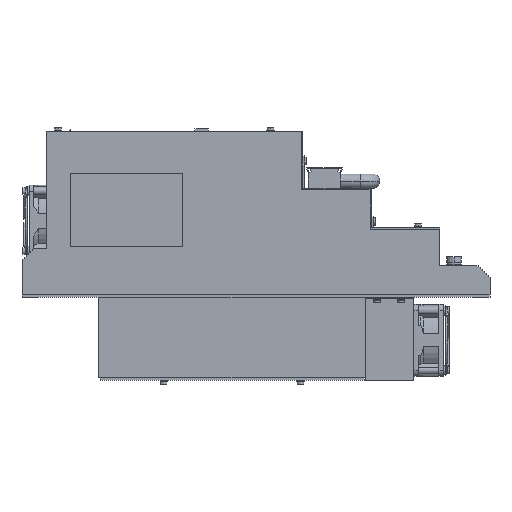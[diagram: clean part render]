
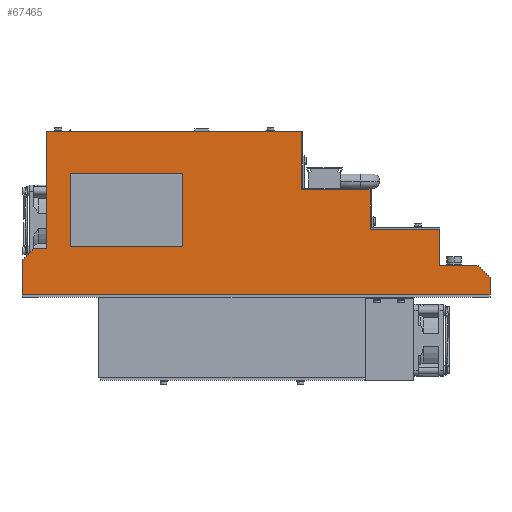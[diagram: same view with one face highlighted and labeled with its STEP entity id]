
A CAD part, left-side view. The second image highlights one B-rep face of the part: STEP entity #67465.
In plain terms, the highlighted planar face has unit normal (-1, 0, 0).
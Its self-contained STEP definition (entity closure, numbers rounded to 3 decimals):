
#19803 = DIRECTION ( 'NONE',  ( 0., 1., 0. ) ) ;
#19804 = VECTOR ( 'NONE', #19803, 1000. ) ;
#19805 = CARTESIAN_POINT ( 'NONE',  ( -12.5, -282.5, 89.5 ) ) ;
#19806 = LINE ( 'NONE', #19805, #19804 ) ;
#19808 = CARTESIAN_POINT ( 'NONE',  ( -12.5, -282.5, 89.5 ) ) ;
#19809 = DIRECTION ( 'NONE',  ( 0., 0., 1. ) ) ;
#19810 = VECTOR ( 'NONE', #19809, 1000. ) ;
#19811 = CARTESIAN_POINT ( 'NONE',  ( -12.5, -282.5, 56.5 ) ) ;
#19812 = LINE ( 'NONE', #19811, #19810 ) ;
#19813 = CARTESIAN_POINT ( 'NONE',  ( -12.5, -282.5, 56.5 ) ) ;
#19814 = DIRECTION ( 'NONE',  ( 0., 1., 0. ) ) ;
#19815 = VECTOR ( 'NONE', #19814, 1000. ) ;
#19816 = CARTESIAN_POINT ( 'NONE',  ( -12.5, -340.5, 56.5 ) ) ;
#19817 = LINE ( 'NONE', #19816, #19815 ) ;
#19818 = DIRECTION ( 'NONE',  ( 0., 1., 0. ) ) ;
#19819 = VECTOR ( 'NONE', #19818, 1000. ) ;
#19820 = CARTESIAN_POINT ( 'NONE',  ( -12.5, -32.5, 103. ) ) ;
#19825 = LINE ( 'NONE', #19820, #19819 ) ;
#19832 = DIRECTION ( 'NONE',  ( 0., -1., 0. ) ) ;
#19833 = VECTOR ( 'NONE', #19832, 1000. ) ;
#19834 = CARTESIAN_POINT ( 'NONE',  ( -12.5, -32.5, 42. ) ) ;
#19835 = LINE ( 'NONE', #19834, #19833 ) ;
#19836 = CARTESIAN_POINT ( 'NONE',  ( -12.5, -126.5, 103. ) ) ;
#19837 = CARTESIAN_POINT ( 'NONE',  ( -12.5, -126.5, 42. ) ) ;
#19838 = DIRECTION ( 'NONE',  ( 0., 0., 1. ) ) ;
#19839 = VECTOR ( 'NONE', #19838, 1000. ) ;
#19840 = CARTESIAN_POINT ( 'NONE',  ( -12.5, -126.5, 42. ) ) ;
#19841 = LINE ( 'NONE', #19840, #19839 ) ;
#19842 = DIRECTION ( 'NONE',  ( 0., 1., 0. ) ) ;
#19843 = DIRECTION ( 'NONE',  ( 1., 0., 0. ) ) ;
#19844 = CARTESIAN_POINT ( 'NONE',  ( -12.5, -12.5, 540.55 ) ) ;
#19845 = AXIS2_PLACEMENT_3D ( 'NONE', #19844, #19843, #19842 ) ;
#19846 = PLANE ( 'NONE',  #19845 ) ;
#19847 = FACE_OUTER_BOUND ( 'NONE', #67449, .T. ) ;
#19848 = FACE_BOUND ( 'NONE', #67466, .T. ) ;
#19893 = CARTESIAN_POINT ( 'NONE',  ( -12.5, -32.5, 42. ) ) ;
#19895 = CARTESIAN_POINT ( 'NONE',  ( -12.5, 7.5, 2. ) ) ;
#19896 = DIRECTION ( 'NONE',  ( 0., 0., 1. ) ) ;
#19897 = VECTOR ( 'NONE', #19896, 1000. ) ;
#19898 = CARTESIAN_POINT ( 'NONE',  ( -12.5, 7.5, -466.722 ) ) ;
#19899 = LINE ( 'NONE', #19898, #19897 ) ;
#19929 = LINE ( 'NONE', #19992, #19991 ) ;
#19930 = CARTESIAN_POINT ( 'NONE',  ( -12.5, -12.5, 40.5 ) ) ;
#19931 = DIRECTION ( 'NONE',  ( 0., 0., -1. ) ) ;
#19932 = VECTOR ( 'NONE', #19931, 1000. ) ;
#19933 = CARTESIAN_POINT ( 'NONE',  ( -12.5, -12.5, 540.55 ) ) ;
#19934 = LINE ( 'NONE', #19933, #19932 ) ;
#19935 = DIRECTION ( 'NONE',  ( 0., 0., 1. ) ) ;
#19936 = VECTOR ( 'NONE', #19935, 1000. ) ;
#19937 = CARTESIAN_POINT ( 'NONE',  ( -12.5, -225.3, 89.5 ) ) ;
#19938 = LINE ( 'NONE', #19937, #19936 ) ;
#19939 = CARTESIAN_POINT ( 'NONE',  ( -12.5, -225.3, 89.5 ) ) ;
#19940 = DIRECTION ( 'NONE',  ( 0., -1., 0. ) ) ;
#19941 = VECTOR ( 'NONE', #19940, 1000. ) ;
#19942 = CARTESIAN_POINT ( 'NONE',  ( -12.5, -340.5, 26. ) ) ;
#19943 = LINE ( 'NONE', #19942, #19941 ) ;
#19944 = CARTESIAN_POINT ( 'NONE',  ( -12.5, -372.5, 26. ) ) ;
#19945 = DIRECTION ( 'NONE',  ( 0., -0.707, -0.707 ) ) ;
#19946 = VECTOR ( 'NONE', #19945, 1000. ) ;
#19947 = CARTESIAN_POINT ( 'NONE',  ( -12.5, -382.5, 16. ) ) ;
#19948 = LINE ( 'NONE', #19947, #19946 ) ;
#19949 = CARTESIAN_POINT ( 'NONE',  ( -12.5, -382.5, 16. ) ) ;
#19950 = DIRECTION ( 'NONE',  ( 0., 0., 1. ) ) ;
#19951 = VECTOR ( 'NONE', #19950, 1000. ) ;
#19952 = CARTESIAN_POINT ( 'NONE',  ( -12.5, -382.5, -466.722 ) ) ;
#19953 = LINE ( 'NONE', #19952, #19951 ) ;
#19954 = CARTESIAN_POINT ( 'NONE',  ( -12.5, -382.5, 2. ) ) ;
#19955 = DIRECTION ( 'NONE',  ( 0., -1., 0. ) ) ;
#19956 = VECTOR ( 'NONE', #19955, 1000. ) ;
#19957 = CARTESIAN_POINT ( 'NONE',  ( -12.5, -382.5, 2. ) ) ;
#19958 = LINE ( 'NONE', #19957, #19956 ) ;
#19979 = CARTESIAN_POINT ( 'NONE',  ( -12.5, -32.5, 103. ) ) ;
#19980 = DIRECTION ( 'NONE',  ( 0., 0., -1. ) ) ;
#19981 = VECTOR ( 'NONE', #19980, 1000. ) ;
#19982 = CARTESIAN_POINT ( 'NONE',  ( -12.5, -32.5, 42. ) ) ;
#19983 = LINE ( 'NONE', #19982, #19981 ) ;
#19984 = CARTESIAN_POINT ( 'NONE',  ( -12.5, 7.5, 30.5 ) ) ;
#19985 = DIRECTION ( 'NONE',  ( 0., -0.707, 0.707 ) ) ;
#19986 = VECTOR ( 'NONE', #19985, 1000. ) ;
#19987 = CARTESIAN_POINT ( 'NONE',  ( -12.5, 7.5, 30.5 ) ) ;
#19988 = LINE ( 'NONE', #19987, #19986 ) ;
#19989 = CARTESIAN_POINT ( 'NONE',  ( -12.5, -2.5, 40.5 ) ) ;
#19990 = DIRECTION ( 'NONE',  ( 0., -1., 0. ) ) ;
#19991 = VECTOR ( 'NONE', #19990, 1000. ) ;
#19992 = CARTESIAN_POINT ( 'NONE',  ( -12.5, -12.5, 40.5 ) ) ;
#27944 = LINE ( 'NONE', #28002, #28001 ) ;
#27999 = CARTESIAN_POINT ( 'NONE',  ( -12.5, -340.5, 26. ) ) ;
#28000 = DIRECTION ( 'NONE',  ( 0., 0., -1. ) ) ;
#28001 = VECTOR ( 'NONE', #28000, 1000. ) ;
#28002 = CARTESIAN_POINT ( 'NONE',  ( -12.5, -340.5, 540.55 ) ) ;
#28160 = CARTESIAN_POINT ( 'NONE',  ( -12.5, -340.5, 56.5 ) ) ;
#32048 = CARTESIAN_POINT ( 'NONE',  ( -12.5, -12.5, 138. ) ) ;
#32109 = CARTESIAN_POINT ( 'NONE',  ( -12.5, -225.3, 138. ) ) ;
#32110 = DIRECTION ( 'NONE',  ( 0., -1., 0. ) ) ;
#32111 = VECTOR ( 'NONE', #32110, 1000. ) ;
#32112 = CARTESIAN_POINT ( 'NONE',  ( -12.5, -12.5, 138. ) ) ;
#32113 = LINE ( 'NONE', #32112, #32111 ) ;
#67447 = ORIENTED_EDGE ( 'NONE', *, *, #67448, .F. ) ;
#67448 = EDGE_CURVE ( 'NONE', #67470, #67537, #19825, .T. ) ;
#67449 = EDGE_LOOP ( 'NONE', ( #67450, #67453, #67456, #67522, #67524, #67525, #67528, #67531, #67534, #67509, #67512, #67515, #67518, #67520 ) ) ;
#67450 = ORIENTED_EDGE ( 'NONE', *, *, #67451, .T. ) ;
#67451 = EDGE_CURVE ( 'NONE', #71995, #67452, #19817, .T. ) ;
#67452 = VERTEX_POINT ( 'NONE', #19813 ) ;
#67453 = ORIENTED_EDGE ( 'NONE', *, *, #67454, .T. ) ;
#67454 = EDGE_CURVE ( 'NONE', #67452, #67455, #19812, .T. ) ;
#67455 = VERTEX_POINT ( 'NONE', #19808 ) ;
#67456 = ORIENTED_EDGE ( 'NONE', *, *, #67457, .T. ) ;
#67457 = EDGE_CURVE ( 'NONE', #67455, #67521, #19806, .T. ) ;
#67465 = ADVANCED_FACE ( 'NONE', ( #19848, #19847 ), #19846, .F. ) ;
#67466 = EDGE_LOOP ( 'NONE', ( #67467, #67471, #67535, #67447 ) ) ;
#67467 = ORIENTED_EDGE ( 'NONE', *, *, #67468, .F. ) ;
#67468 = EDGE_CURVE ( 'NONE', #67469, #67470, #19841, .T. ) ;
#67469 = VERTEX_POINT ( 'NONE', #19837 ) ;
#67470 = VERTEX_POINT ( 'NONE', #19836 ) ;
#67471 = ORIENTED_EDGE ( 'NONE', *, *, #67472, .F. ) ;
#67472 = EDGE_CURVE ( 'NONE', #67473, #67469, #19835, .T. ) ;
#67473 = VERTEX_POINT ( 'NONE', #19893 ) ;
#67507 = EDGE_CURVE ( 'NONE', #67508, #67533, #19899, .T. ) ;
#67508 = VERTEX_POINT ( 'NONE', #19895 ) ;
#67509 = ORIENTED_EDGE ( 'NONE', *, *, #67510, .T. ) ;
#67510 = EDGE_CURVE ( 'NONE', #67508, #67511, #19958, .T. ) ;
#67511 = VERTEX_POINT ( 'NONE', #19954 ) ;
#67512 = ORIENTED_EDGE ( 'NONE', *, *, #67513, .T. ) ;
#67513 = EDGE_CURVE ( 'NONE', #67511, #67514, #19953, .T. ) ;
#67514 = VERTEX_POINT ( 'NONE', #19949 ) ;
#67515 = ORIENTED_EDGE ( 'NONE', *, *, #67516, .F. ) ;
#67516 = EDGE_CURVE ( 'NONE', #67517, #67514, #19948, .T. ) ;
#67517 = VERTEX_POINT ( 'NONE', #19944 ) ;
#67518 = ORIENTED_EDGE ( 'NONE', *, *, #67519, .F. ) ;
#67519 = EDGE_CURVE ( 'NONE', #71907, #67517, #19943, .T. ) ;
#67520 = ORIENTED_EDGE ( 'NONE', *, *, #71906, .F. ) ;
#67521 = VERTEX_POINT ( 'NONE', #19939 ) ;
#67522 = ORIENTED_EDGE ( 'NONE', *, *, #67523, .T. ) ;
#67523 = EDGE_CURVE ( 'NONE', #67521, #74277, #19938, .T. ) ;
#67524 = ORIENTED_EDGE ( 'NONE', *, *, #74276, .F. ) ;
#67525 = ORIENTED_EDGE ( 'NONE', *, *, #67526, .T. ) ;
#67526 = EDGE_CURVE ( 'NONE', #74274, #67527, #19934, .T. ) ;
#67527 = VERTEX_POINT ( 'NONE', #19930 ) ;
#67528 = ORIENTED_EDGE ( 'NONE', *, *, #67529, .F. ) ;
#67529 = EDGE_CURVE ( 'NONE', #67530, #67527, #19929, .T. ) ;
#67530 = VERTEX_POINT ( 'NONE', #19989 ) ;
#67531 = ORIENTED_EDGE ( 'NONE', *, *, #67532, .F. ) ;
#67532 = EDGE_CURVE ( 'NONE', #67533, #67530, #19988, .T. ) ;
#67533 = VERTEX_POINT ( 'NONE', #19984 ) ;
#67534 = ORIENTED_EDGE ( 'NONE', *, *, #67507, .F. ) ;
#67535 = ORIENTED_EDGE ( 'NONE', *, *, #67536, .F. ) ;
#67536 = EDGE_CURVE ( 'NONE', #67537, #67473, #19983, .T. ) ;
#67537 = VERTEX_POINT ( 'NONE', #19979 ) ;
#71906 = EDGE_CURVE ( 'NONE', #71995, #71907, #27944, .T. ) ;
#71907 = VERTEX_POINT ( 'NONE', #27999 ) ;
#71995 = VERTEX_POINT ( 'NONE', #28160 ) ;
#74274 = VERTEX_POINT ( 'NONE', #32048 ) ;
#74276 = EDGE_CURVE ( 'NONE', #74274, #74277, #32113, .T. ) ;
#74277 = VERTEX_POINT ( 'NONE', #32109 ) ;
